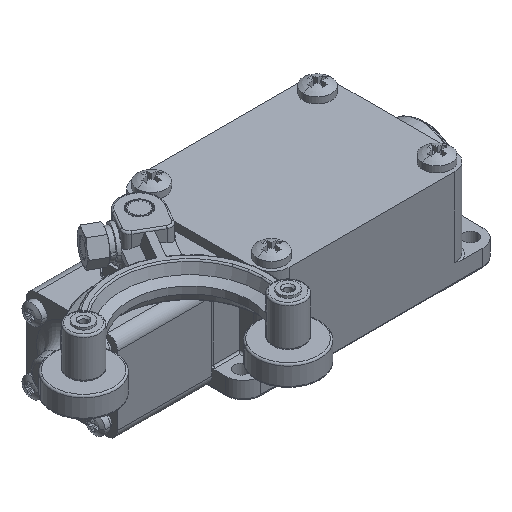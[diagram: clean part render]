
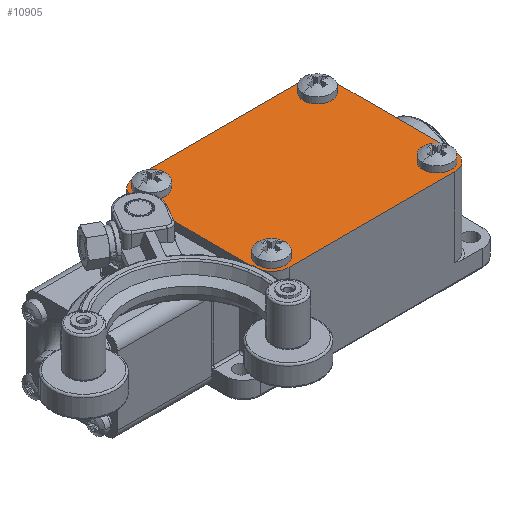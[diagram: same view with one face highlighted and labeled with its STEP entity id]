
A CAD part, isometric view. The second image highlights one B-rep face of the part: STEP entity #10905.
In plain terms, the highlighted planar face has unit normal (0, 0, 1).
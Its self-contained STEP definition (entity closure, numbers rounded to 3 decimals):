
#679=DIRECTION('',(-1.,0.,0.));
#680=VECTOR('',#679,47.);
#681=CARTESIAN_POINT('',(60.5,44.5,1.8));
#682=LINE('',#681,#680);
#708=DIRECTION('',(0.,1.,0.));
#709=VECTOR('',#708,34.);
#710=CARTESIAN_POINT('',(65.5,5.5,1.8));
#711=LINE('',#710,#709);
#742=DIRECTION('',(1.,0.,0.));
#743=VECTOR('',#742,47.);
#744=CARTESIAN_POINT('',(13.5,0.5,1.8));
#745=LINE('',#744,#743);
#762=CARTESIAN_POINT('',(13.5,5.5,1.8));
#763=DIRECTION('',(0.,0.,-1.));
#764=DIRECTION('',(-1.,0.,0.));
#765=AXIS2_PLACEMENT_3D('',#762,#763,#764);
#767=CARTESIAN_POINT('',(13.5,5.5,1.8));
#768=DIRECTION('',(0.,0.,-1.));
#769=DIRECTION('',(1.,0.,0.));
#770=AXIS2_PLACEMENT_3D('',#767,#768,#769);
#772=CARTESIAN_POINT('',(13.5,39.5,1.8));
#773=DIRECTION('',(0.,0.,-1.));
#774=DIRECTION('',(-1.,0.,0.));
#775=AXIS2_PLACEMENT_3D('',#772,#773,#774);
#777=CARTESIAN_POINT('',(13.5,39.5,1.8));
#778=DIRECTION('',(0.,0.,-1.));
#779=DIRECTION('',(1.,0.,0.));
#780=AXIS2_PLACEMENT_3D('',#777,#778,#779);
#782=CARTESIAN_POINT('',(60.5,5.5,1.8));
#783=DIRECTION('',(0.,0.,-1.));
#784=DIRECTION('',(-1.,0.,0.));
#785=AXIS2_PLACEMENT_3D('',#782,#783,#784);
#787=CARTESIAN_POINT('',(60.5,5.5,1.8));
#788=DIRECTION('',(0.,0.,-1.));
#789=DIRECTION('',(1.,0.,0.));
#790=AXIS2_PLACEMENT_3D('',#787,#788,#789);
#792=CARTESIAN_POINT('',(60.5,39.5,1.8));
#793=DIRECTION('',(0.,0.,-1.));
#794=DIRECTION('',(-1.,0.,0.));
#795=AXIS2_PLACEMENT_3D('',#792,#793,#794);
#797=CARTESIAN_POINT('',(60.5,39.5,1.8));
#798=DIRECTION('',(0.,0.,-1.));
#799=DIRECTION('',(1.,0.,0.));
#800=AXIS2_PLACEMENT_3D('',#797,#798,#799);
#802=CARTESIAN_POINT('',(60.5,5.5,1.8));
#803=DIRECTION('',(0.,0.,1.));
#804=DIRECTION('',(0.,-1.,0.));
#805=AXIS2_PLACEMENT_3D('',#802,#803,#804);
#807=CARTESIAN_POINT('',(13.5,5.5,1.8));
#808=DIRECTION('',(0.,0.,1.));
#809=DIRECTION('',(-1.,0.,0.));
#810=AXIS2_PLACEMENT_3D('',#807,#808,#809);
#812=CARTESIAN_POINT('',(13.5,39.5,1.8));
#813=DIRECTION('',(0.,0.,1.));
#814=DIRECTION('',(0.,1.,0.));
#815=AXIS2_PLACEMENT_3D('',#812,#813,#814);
#817=CARTESIAN_POINT('',(60.5,39.5,1.8));
#818=DIRECTION('',(0.,0.,1.));
#819=DIRECTION('',(1.,0.,0.));
#820=AXIS2_PLACEMENT_3D('',#817,#818,#819);
#1607=DIRECTION('',(0.,-1.,0.));
#1608=VECTOR('',#1607,34.);
#1609=CARTESIAN_POINT('',(8.5,39.5,1.8));
#1610=LINE('',#1609,#1608);
#9448=CARTESIAN_POINT('',(9.5,5.5,1.8));
#9449=CARTESIAN_POINT('',(17.5,5.5,1.8));
#9450=VERTEX_POINT('',#9448);
#9451=VERTEX_POINT('',#9449);
#9484=CARTESIAN_POINT('',(9.5,39.5,1.8));
#9485=CARTESIAN_POINT('',(17.5,39.5,1.8));
#9486=VERTEX_POINT('',#9484);
#9487=VERTEX_POINT('',#9485);
#9520=CARTESIAN_POINT('',(56.5,5.5,1.8));
#9521=CARTESIAN_POINT('',(64.5,5.5,1.8));
#9522=VERTEX_POINT('',#9520);
#9523=VERTEX_POINT('',#9521);
#9556=CARTESIAN_POINT('',(56.5,39.5,1.8));
#9557=CARTESIAN_POINT('',(64.5,39.5,1.8));
#9558=VERTEX_POINT('',#9556);
#9559=VERTEX_POINT('',#9557);
#9620=CARTESIAN_POINT('',(8.5,5.5,1.8));
#9621=CARTESIAN_POINT('',(13.5,0.5,1.8));
#9622=VERTEX_POINT('',#9620);
#9623=VERTEX_POINT('',#9621);
#9624=CARTESIAN_POINT('',(60.5,0.5,1.8));
#9625=CARTESIAN_POINT('',(65.5,5.5,1.8));
#9626=VERTEX_POINT('',#9624);
#9627=VERTEX_POINT('',#9625);
#9628=CARTESIAN_POINT('',(65.5,39.5,1.8));
#9629=CARTESIAN_POINT('',(60.5,44.5,1.8));
#9630=VERTEX_POINT('',#9628);
#9631=VERTEX_POINT('',#9629);
#9632=CARTESIAN_POINT('',(13.5,44.5,1.8));
#9633=CARTESIAN_POINT('',(8.5,39.5,1.8));
#9634=VERTEX_POINT('',#9632);
#9635=VERTEX_POINT('',#9633);
#10864=CARTESIAN_POINT('',(37.,22.5,1.8));
#10865=DIRECTION('',(0.,0.,-1.));
#10866=DIRECTION('',(0.,-1.,0.));
#10867=AXIS2_PLACEMENT_3D('',#10864,#10865,#10866);
#10868=PLANE('',#10867);
#10869=ORIENTED_EDGE('',*,*,#10678,.F.);
#10870=ORIENTED_EDGE('',*,*,#10701,.F.);
#10871=ORIENTED_EDGE('',*,*,#10714,.F.);
#10873=ORIENTED_EDGE('',*,*,#10872,.F.);
#10875=ORIENTED_EDGE('',*,*,#10874,.F.);
#10876=ORIENTED_EDGE('',*,*,#10623,.F.);
#10877=ORIENTED_EDGE('',*,*,#10638,.F.);
#10878=ORIENTED_EDGE('',*,*,#10663,.F.);
#10879=EDGE_LOOP('',(#10869,#10870,#10871,#10873,#10875,#10876,#10877,#10878));
#10880=FACE_OUTER_BOUND('',#10879,.F.);
#10882=ORIENTED_EDGE('',*,*,#10881,.F.);
#10884=ORIENTED_EDGE('',*,*,#10883,.F.);
#10885=EDGE_LOOP('',(#10882,#10884));
#10886=FACE_BOUND('',#10885,.F.);
#10888=ORIENTED_EDGE('',*,*,#10887,.F.);
#10890=ORIENTED_EDGE('',*,*,#10889,.F.);
#10891=EDGE_LOOP('',(#10888,#10890));
#10892=FACE_BOUND('',#10891,.F.);
#10894=ORIENTED_EDGE('',*,*,#10893,.F.);
#10896=ORIENTED_EDGE('',*,*,#10895,.F.);
#10897=EDGE_LOOP('',(#10894,#10896));
#10898=FACE_BOUND('',#10897,.F.);
#10900=ORIENTED_EDGE('',*,*,#10899,.F.);
#10902=ORIENTED_EDGE('',*,*,#10901,.F.);
#10903=EDGE_LOOP('',(#10900,#10902));
#10904=FACE_BOUND('',#10903,.F.);
#10905=ADVANCED_FACE('',(#10880,#10886,#10892,#10898,#10904),#10868,.F.);
#766=CIRCLE('',#765,4.);
#771=CIRCLE('',#770,4.);
#776=CIRCLE('',#775,4.);
#781=CIRCLE('',#780,4.);
#786=CIRCLE('',#785,4.);
#791=CIRCLE('',#790,4.);
#796=CIRCLE('',#795,4.);
#801=CIRCLE('',#800,4.);
#806=CIRCLE('',#805,5.);
#811=CIRCLE('',#810,5.);
#816=CIRCLE('',#815,5.);
#821=CIRCLE('',#820,5.);
#10623=EDGE_CURVE('',#9634,#9635,#816,.T.);
#10638=EDGE_CURVE('',#9631,#9634,#682,.T.);
#10663=EDGE_CURVE('',#9630,#9631,#821,.T.);
#10678=EDGE_CURVE('',#9627,#9630,#711,.T.);
#10701=EDGE_CURVE('',#9626,#9627,#806,.T.);
#10714=EDGE_CURVE('',#9623,#9626,#745,.T.);
#10872=EDGE_CURVE('',#9622,#9623,#811,.T.);
#10874=EDGE_CURVE('',#9635,#9622,#1610,.T.);
#10881=EDGE_CURVE('',#9450,#9451,#766,.T.);
#10883=EDGE_CURVE('',#9451,#9450,#771,.T.);
#10887=EDGE_CURVE('',#9486,#9487,#776,.T.);
#10889=EDGE_CURVE('',#9487,#9486,#781,.T.);
#10893=EDGE_CURVE('',#9522,#9523,#786,.T.);
#10895=EDGE_CURVE('',#9523,#9522,#791,.T.);
#10899=EDGE_CURVE('',#9558,#9559,#796,.T.);
#10901=EDGE_CURVE('',#9559,#9558,#801,.T.);
